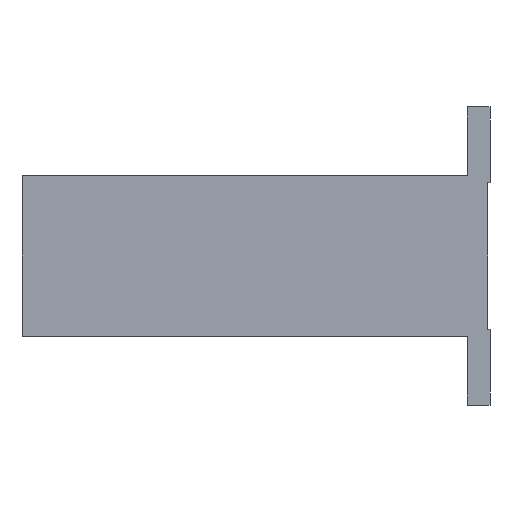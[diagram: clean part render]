
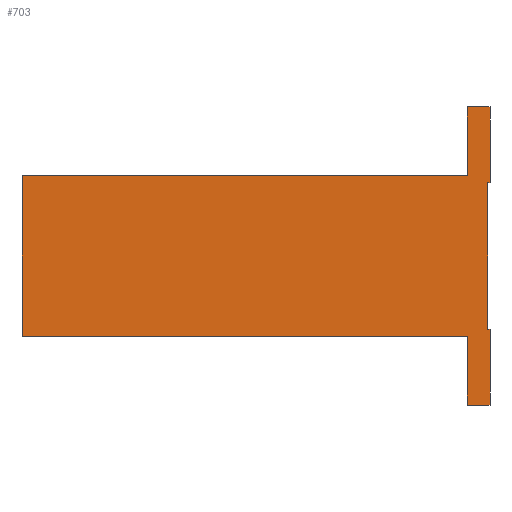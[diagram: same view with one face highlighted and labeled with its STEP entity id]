
A CAD part, front view. The second image highlights one B-rep face of the part: STEP entity #703.
In plain terms, the highlighted planar face has unit normal (0, -1, 0).
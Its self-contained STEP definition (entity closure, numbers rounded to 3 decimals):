
#50=PLANE('',#758);
#85=FACE_OUTER_BOUND('',#131,.T.);
#131=EDGE_LOOP('',(#645,#646,#647,#648,#649,#650,#651,#652,#653,#654,#655,
#656));
#153=LINE('',#1000,#231);
#155=LINE('',#1006,#233);
#158=LINE('',#1011,#236);
#160=LINE('',#1015,#238);
#167=LINE('',#1034,#245);
#187=LINE('',#1092,#265);
#189=LINE('',#1096,#267);
#190=LINE('',#1099,#268);
#192=LINE('',#1103,#270);
#199=LINE('',#1116,#277);
#208=LINE('',#1139,#286);
#210=LINE('',#1142,#288);
#231=VECTOR('',#806,0.5);
#233=VECTOR('',#810,0.5);
#236=VECTOR('',#815,32.);
#238=VECTOR('',#819,16.5);
#245=VECTOR('',#834,16.5);
#265=VECTOR('',#888,5.);
#267=VECTOR('',#892,15.);
#268=VECTOR('',#895,5.);
#270=VECTOR('',#899,15.);
#277=VECTOR('',#910,97.);
#286=VECTOR('',#939,97.);
#288=VECTOR('',#943,35.);
#325=VERTEX_POINT('',#994);
#327=VERTEX_POINT('',#998);
#328=VERTEX_POINT('',#1002);
#330=VERTEX_POINT('',#1005);
#332=VERTEX_POINT('',#1014);
#340=VERTEX_POINT('',#1032);
#361=VERTEX_POINT('',#1090);
#362=VERTEX_POINT('',#1094);
#363=VERTEX_POINT('',#1098);
#364=VERTEX_POINT('',#1102);
#368=VERTEX_POINT('',#1114);
#372=VERTEX_POINT('',#1138);
#398=EDGE_CURVE('',#325,#327,#153,.T.);
#400=EDGE_CURVE('',#330,#328,#155,.T.);
#403=EDGE_CURVE('',#327,#330,#158,.T.);
#405=EDGE_CURVE('',#332,#325,#160,.T.);
#415=EDGE_CURVE('',#328,#340,#167,.T.);
#443=EDGE_CURVE('',#340,#361,#187,.T.);
#445=EDGE_CURVE('',#362,#361,#189,.T.);
#446=EDGE_CURVE('',#332,#363,#190,.T.);
#448=EDGE_CURVE('',#363,#364,#192,.T.);
#456=EDGE_CURVE('',#362,#368,#199,.T.);
#466=EDGE_CURVE('',#372,#364,#208,.T.);
#468=EDGE_CURVE('',#368,#372,#210,.T.);
#645=ORIENTED_EDGE('',*,*,#400,.T.);
#646=ORIENTED_EDGE('',*,*,#415,.T.);
#647=ORIENTED_EDGE('',*,*,#443,.T.);
#648=ORIENTED_EDGE('',*,*,#445,.F.);
#649=ORIENTED_EDGE('',*,*,#456,.T.);
#650=ORIENTED_EDGE('',*,*,#468,.T.);
#651=ORIENTED_EDGE('',*,*,#466,.T.);
#652=ORIENTED_EDGE('',*,*,#448,.F.);
#653=ORIENTED_EDGE('',*,*,#446,.F.);
#654=ORIENTED_EDGE('',*,*,#405,.T.);
#655=ORIENTED_EDGE('',*,*,#398,.T.);
#656=ORIENTED_EDGE('',*,*,#403,.T.);
#703=ADVANCED_FACE('',(#85),#50,.T.);
#758=AXIS2_PLACEMENT_3D('',#1141,#941,#942);
#806=DIRECTION('',(-1.,0.,0.));
#810=DIRECTION('',(1.,0.,0.));
#815=DIRECTION('',(0.,0.,1.));
#819=DIRECTION('',(0.,0.,1.));
#834=DIRECTION('',(0.,0.,1.));
#888=DIRECTION('',(-1.,0.,0.));
#892=DIRECTION('',(0.,0.,1.));
#895=DIRECTION('',(-1.,0.,0.));
#899=DIRECTION('',(0.,0.,1.));
#910=DIRECTION('',(-1.,0.,0.));
#939=DIRECTION('',(1.,0.,0.));
#941=DIRECTION('center_axis',(0.,-1.,0.));
#942=DIRECTION('ref_axis',(0.,0.,-1.));
#943=DIRECTION('',(0.,0.,-1.));
#994=CARTESIAN_POINT('',(51.,-17.5,-16.));
#998=CARTESIAN_POINT('',(50.5,-17.5,-16.));
#1000=CARTESIAN_POINT('',(21.855,-17.5,-16.));
#1002=CARTESIAN_POINT('',(51.,-17.5,16.));
#1005=CARTESIAN_POINT('',(50.5,-17.5,16.));
#1006=CARTESIAN_POINT('',(21.855,-17.5,16.));
#1011=CARTESIAN_POINT('',(50.5,-17.5,-3.645));
#1014=CARTESIAN_POINT('',(51.,-17.5,-32.5));
#1015=CARTESIAN_POINT('',(51.,-17.5,-32.5));
#1032=CARTESIAN_POINT('',(51.,-17.5,32.5));
#1034=CARTESIAN_POINT('',(51.,-17.5,-32.5));
#1090=CARTESIAN_POINT('',(46.,-17.5,32.5));
#1092=CARTESIAN_POINT('',(51.,-17.5,32.5));
#1094=CARTESIAN_POINT('',(46.,-17.5,17.5));
#1096=CARTESIAN_POINT('',(46.,-17.5,17.5));
#1098=CARTESIAN_POINT('',(46.,-17.5,-32.5));
#1099=CARTESIAN_POINT('',(51.,-17.5,-32.5));
#1102=CARTESIAN_POINT('',(46.,-17.5,-17.5));
#1103=CARTESIAN_POINT('',(46.,-17.5,-32.5));
#1114=CARTESIAN_POINT('',(-51.,-17.5,17.5));
#1116=CARTESIAN_POINT('',(-51.,-17.5,17.5));
#1138=CARTESIAN_POINT('',(-51.,-17.5,-17.5));
#1139=CARTESIAN_POINT('',(51.,-17.5,-17.5));
#1141=CARTESIAN_POINT('Origin',(-7.291,-17.5,-7.291));
#1142=CARTESIAN_POINT('',(-51.,-17.5,-17.5));
